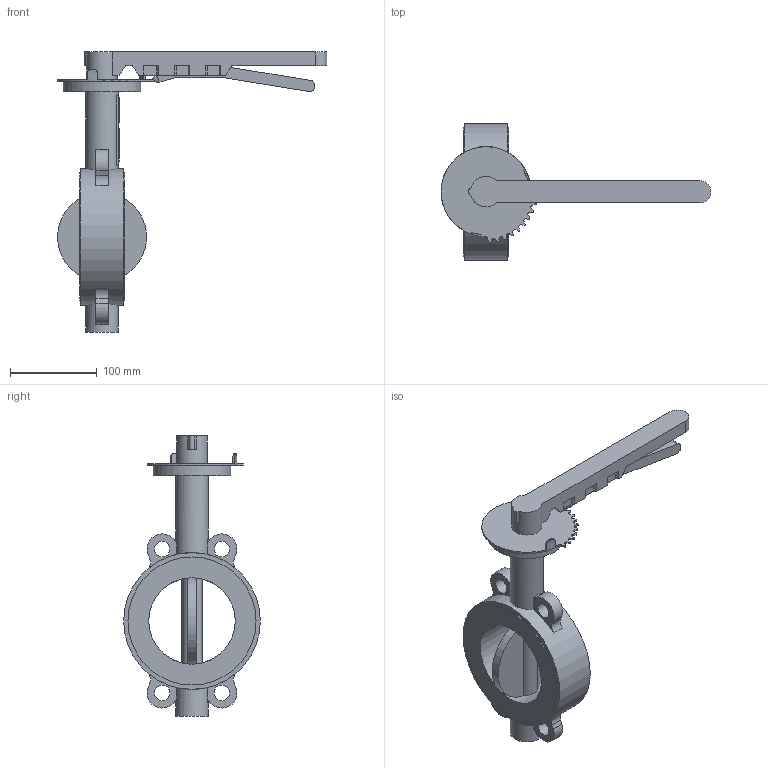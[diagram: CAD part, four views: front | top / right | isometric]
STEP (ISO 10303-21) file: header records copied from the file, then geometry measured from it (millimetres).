
FILE_DESCRIPTION(('STEP AP203'), '1');
FILE_NAME('青蜮铕 015WDN100', '', ('UNSPECIFIED'), ('UNSPECIFIED'), 'ASCON STEP Converter 1.6', 'ASCON Math Kernel', '');
FILE_SCHEMA(('CONFIG_CONTROL_DESIGN'));
Length unit declared in the file: millimetre
Bounding box: 312 x 158 x 324 mm (x, y, z)
Volume: 199502 mm3; surface area: 178558.5 mm2
Topology: 1 solids, 2 shells, 753 faces, 2215 edges, 1427 vertices
Faces by surface type: cylinder 488, plane 253, bspline 12
Full cylindrical faces by diameter (mm): 10 x4, 15.9 x1, 18 x4, 35 x1, 38 x2, 55 x1, 90 x1, 100 x1, 148 x2, 158 x1
Entity records: 33972 total; most frequent: CARTESIAN_POINT 7117, DIRECTION 4638, ORIENTED_EDGE 4333, EDGE_CURVE 2198, AXIS2_PLACEMENT_3D 1770, VERTEX_POINT 1427, LINE 1098, VECTOR 1098
